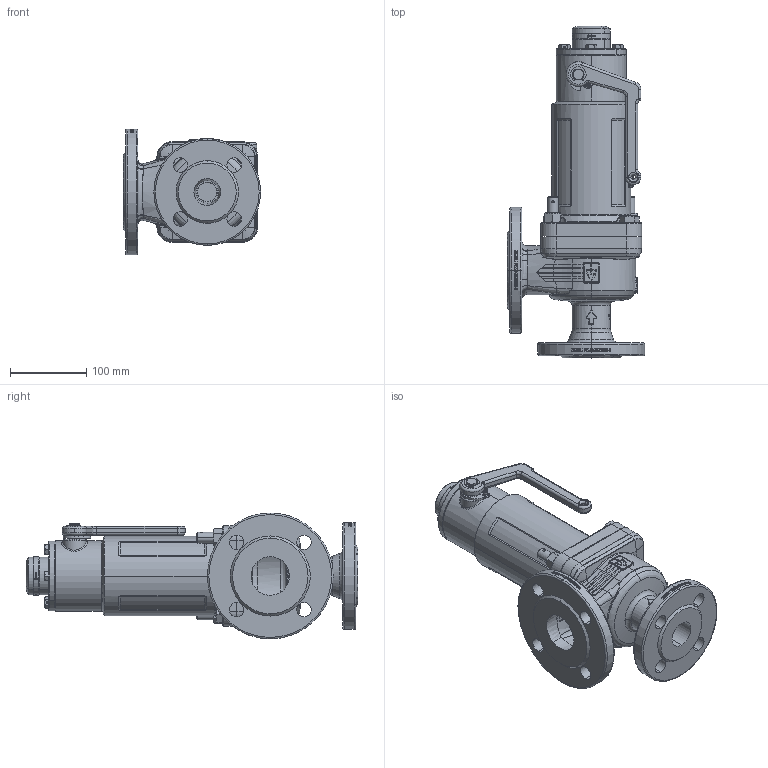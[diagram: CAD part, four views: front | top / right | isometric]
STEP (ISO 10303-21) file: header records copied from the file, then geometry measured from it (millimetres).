
FILE_DESCRIPTION (( 'STEP AP214' ), '1' );
FILE_NAME ('355tGFL_32_FLFL_3250.STEP', '2020-01-15T13:14:26', ( '' ), ( '' ), 'SwSTEP 2.0', 'SolidWorks 2018', '' );
FILE_SCHEMA (( 'AUTOMOTIVE_DESIGN' ));
Length unit declared in the file: millimetre
Products named in the file (1): 355tGFL_32_FLFL_3250
Bounding box: 180 x 435.3 x 165 mm (x, y, z)
Volume: 2152423.2 mm3; surface area: 480462.4 mm2
Topology: 21 solids, 21 shells, 2288 faces, 6090 edges, 4034 vertices
Faces by surface type: bspline 663, cylinder 617, plane 601, cone 243, torus 156, sphere 8
Entity records: 170747 total; most frequent: CARTESIAN_POINT 92924, ORIENTED_EDGE 12092, DIRECTION 9162, EDGE_CURVE 6046, VERTEX_POINT 4032, AXIS2_PLACEMENT_3D 3677, EDGE_LOOP 2598, UNCERTAINTY_MEASURE_WITH_UNIT 2311
